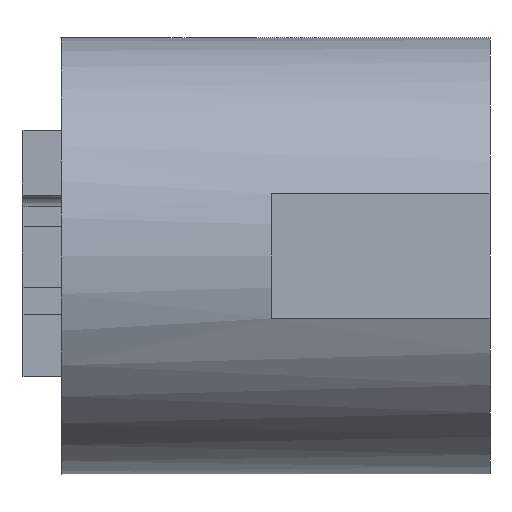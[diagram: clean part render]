
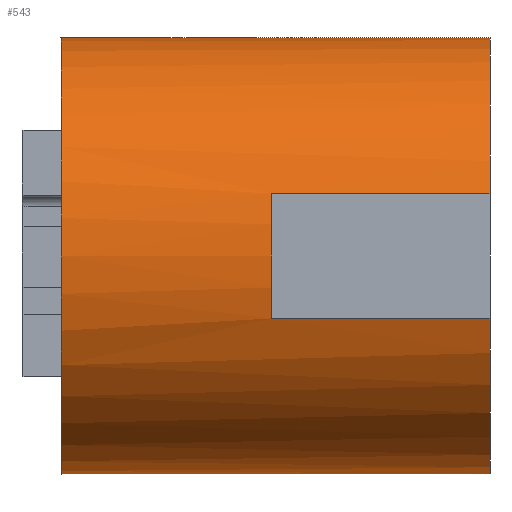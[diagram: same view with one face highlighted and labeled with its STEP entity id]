
A CAD part, front view. The second image highlights one B-rep face of the part: STEP entity #543.
In plain terms, the highlighted cylindrical face has radius 2.8 mm (diameter 5.6 mm), a full revolution.
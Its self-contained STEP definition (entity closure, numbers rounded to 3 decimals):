
#19=CYLINDRICAL_SURFACE('',#577,2.8);
#22=CIRCLE('',#562,2.8);
#23=CIRCLE('',#568,2.8);
#24=CIRCLE('',#569,2.8);
#25=CIRCLE('',#570,2.8);
#26=CIRCLE('',#574,2.8);
#27=CIRCLE('',#576,2.8);
#54=FACE_OUTER_BOUND('',#85,.T.);
#85=EDGE_LOOP('',(#461,#462,#463,#464,#465,#466,#467,#468,#469,#470,#471,
#472));
#152=LINE('',#961,#213);
#153=LINE('',#962,#214);
#154=LINE('',#963,#215);
#155=LINE('',#964,#216);
#156=LINE('',#965,#217);
#213=VECTOR('',#691,10.);
#214=VECTOR('',#692,10.);
#215=VECTOR('',#693,10.);
#216=VECTOR('',#694,2.8);
#217=VECTOR('',#695,10.);
#248=VERTEX_POINT('',#855);
#256=VERTEX_POINT('',#923);
#257=VERTEX_POINT('',#925);
#260=VERTEX_POINT('',#931);
#261=VERTEX_POINT('',#933);
#262=VERTEX_POINT('',#935);
#264=VERTEX_POINT('',#943);
#265=VERTEX_POINT('',#944);
#268=VERTEX_POINT('',#952);
#269=VERTEX_POINT('',#953);
#306=EDGE_CURVE('',#248,#248,#22,.T.);
#322=EDGE_CURVE('',#256,#257,#23,.T.);
#326=EDGE_CURVE('',#260,#261,#24,.T.);
#327=EDGE_CURVE('',#261,#262,#25,.T.);
#330=EDGE_CURVE('',#264,#265,#26,.T.);
#334=EDGE_CURVE('',#268,#269,#27,.T.);
#338=EDGE_CURVE('',#265,#257,#152,.T.);
#339=EDGE_CURVE('',#268,#256,#153,.T.);
#340=EDGE_CURVE('',#269,#262,#154,.T.);
#341=EDGE_CURVE('',#261,#248,#155,.T.);
#342=EDGE_CURVE('',#264,#260,#156,.T.);
#461=ORIENTED_EDGE('',*,*,#338,.T.);
#462=ORIENTED_EDGE('',*,*,#322,.F.);
#463=ORIENTED_EDGE('',*,*,#339,.F.);
#464=ORIENTED_EDGE('',*,*,#334,.T.);
#465=ORIENTED_EDGE('',*,*,#340,.T.);
#466=ORIENTED_EDGE('',*,*,#327,.F.);
#467=ORIENTED_EDGE('',*,*,#341,.T.);
#468=ORIENTED_EDGE('',*,*,#306,.T.);
#469=ORIENTED_EDGE('',*,*,#341,.F.);
#470=ORIENTED_EDGE('',*,*,#326,.F.);
#471=ORIENTED_EDGE('',*,*,#342,.F.);
#472=ORIENTED_EDGE('',*,*,#330,.T.);
#543=ADVANCED_FACE('',(#54),#19,.T.);
#562=AXIS2_PLACEMENT_3D('',#856,#635,#636);
#568=AXIS2_PLACEMENT_3D('',#926,#660,#661);
#569=AXIS2_PLACEMENT_3D('',#934,#665,#666);
#570=AXIS2_PLACEMENT_3D('',#936,#667,#668);
#574=AXIS2_PLACEMENT_3D('',#945,#677,#678);
#576=AXIS2_PLACEMENT_3D('',#954,#684,#685);
#577=AXIS2_PLACEMENT_3D('',#960,#689,#690);
#635=DIRECTION('center_axis',(1.,0.,0.));
#636=DIRECTION('ref_axis',(0.,0.,-1.));
#660=DIRECTION('center_axis',(1.,0.,0.));
#661=DIRECTION('ref_axis',(0.,0.,-1.));
#665=DIRECTION('center_axis',(1.,0.,0.));
#666=DIRECTION('ref_axis',(0.,0.,-1.));
#667=DIRECTION('center_axis',(1.,0.,0.));
#668=DIRECTION('ref_axis',(0.,0.,-1.));
#677=DIRECTION('center_axis',(-1.,0.,0.));
#678=DIRECTION('ref_axis',(0.,0.,-1.));
#684=DIRECTION('center_axis',(-1.,0.,0.));
#685=DIRECTION('ref_axis',(0.,0.,-1.));
#689=DIRECTION('center_axis',(1.,0.,0.));
#690=DIRECTION('ref_axis',(0.,0.,-1.));
#691=DIRECTION('',(1.,0.,0.));
#692=DIRECTION('',(1.,0.,0.));
#693=DIRECTION('',(1.,0.,0.));
#694=DIRECTION('',(-1.,0.,0.));
#695=DIRECTION('',(1.,0.,0.));
#855=CARTESIAN_POINT('',(-115.2,1.7,40.394));
#856=CARTESIAN_POINT('Origin',(-115.2,1.7,37.594));
#923=CARTESIAN_POINT('',(-109.7,-0.983,36.794));
#925=CARTESIAN_POINT('',(-109.7,4.383,36.794));
#926=CARTESIAN_POINT('Origin',(-109.7,1.7,37.594));
#931=CARTESIAN_POINT('',(-109.7,4.383,38.394));
#933=CARTESIAN_POINT('',(-109.7,1.7,40.394));
#934=CARTESIAN_POINT('Origin',(-109.7,1.7,37.594));
#935=CARTESIAN_POINT('',(-109.7,-0.983,38.394));
#936=CARTESIAN_POINT('Origin',(-109.7,1.7,37.594));
#943=CARTESIAN_POINT('',(-112.5,4.383,38.394));
#944=CARTESIAN_POINT('',(-112.5,4.383,36.794));
#945=CARTESIAN_POINT('Origin',(-112.5,1.7,37.594));
#952=CARTESIAN_POINT('',(-112.5,-0.983,36.794));
#953=CARTESIAN_POINT('',(-112.5,-0.983,38.394));
#954=CARTESIAN_POINT('Origin',(-112.5,1.7,37.594));
#960=CARTESIAN_POINT('Origin',(-111.,1.7,37.594));
#961=CARTESIAN_POINT('',(-111.,4.383,36.794));
#962=CARTESIAN_POINT('',(-111.,-0.983,36.794));
#963=CARTESIAN_POINT('',(-111.,-0.983,38.394));
#964=CARTESIAN_POINT('',(-111.,1.7,40.394));
#965=CARTESIAN_POINT('',(-111.,4.383,38.394));
